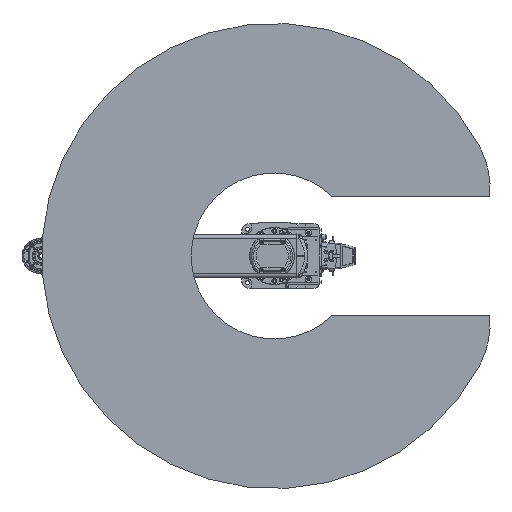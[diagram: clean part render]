
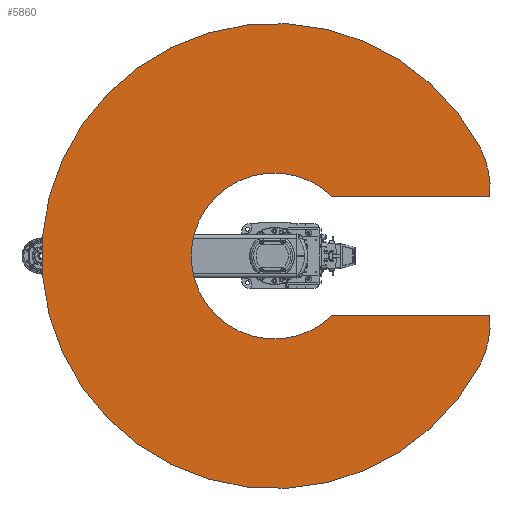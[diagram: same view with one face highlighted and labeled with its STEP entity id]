
A CAD part, front view. The second image highlights one B-rep face of the part: STEP entity #5860.
In plain terms, the highlighted planar face has unit normal (0, -1, 0).
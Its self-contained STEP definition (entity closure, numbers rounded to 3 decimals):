
#5860 = ADVANCED_FACE( '', ( #13416 ), #13417, .F. );
#13416 = FACE_OUTER_BOUND( '', #23143, .T. );
#13417 = PLANE( '', #23144 );
#23143 = EDGE_LOOP( '', ( #39813, #39814, #39815, #39816, #39817, #39818 ) );
#23144 = AXIS2_PLACEMENT_3D( '', #39819, #39820, #39821 );
#39813 = ORIENTED_EDGE( '', *, *, #52552, .T. );
#39814 = ORIENTED_EDGE( '', *, *, #53417, .F. );
#39815 = ORIENTED_EDGE( '', *, *, #53526, .F. );
#39816 = ORIENTED_EDGE( '', *, *, #55521, .F. );
#39817 = ORIENTED_EDGE( '', *, *, #56117, .T. );
#39818 = ORIENTED_EDGE( '', *, *, #56118, .T. );
#39819 = CARTESIAN_POINT( '', ( 93.894, 0., 176.59 ) );
#39820 = DIRECTION( '', ( 0., 1., 0. ) );
#39821 = DIRECTION( '', ( 0., 0., 1. ) );
#52552 = EDGE_CURVE( '', #62901, #62899, #62902, .T. );
#53417 = EDGE_CURVE( '', #64299, #62899, #64301, .T. );
#53526 = EDGE_CURVE( '', #64466, #64299, #64467, .T. );
#55521 = EDGE_CURVE( '', #67464, #64466, #67467, .T. );
#56117 = EDGE_CURVE( '', #67464, #68270, #68271, .T. );
#56118 = EDGE_CURVE( '', #68270, #62901, #68272, .T. );
#62899 = VERTEX_POINT( '', #78990 );
#62901 = VERTEX_POINT( '', #78993 );
#62902 = LINE( '', #78994, #78995 );
#64299 = VERTEX_POINT( '', #81200 );
#64301 = CIRCLE( '', #81203, 250. );
#64466 = VERTEX_POINT( '', #81648 );
#64467 = CIRCLE( '', #81649, 650. );
#67464 = VERTEX_POINT( '', #86862 );
#67467 = CIRCLE( '', #86866, 250. );
#68270 = VERTEX_POINT( '', #88290 );
#68271 = LINE( '', #88291, #88292 );
#68272 = CIRCLE( '', #88293, 232. );
#78990 = CARTESIAN_POINT( '', ( -165., 0., 602.138 ) );
#78993 = CARTESIAN_POINT( '', ( -165., 0., 163.092 ) );
#78994 = CARTESIAN_POINT( '', ( -165., 0., 0. ) );
#78995 = VECTOR( '', #95796, 1000. );
#81200 = CARTESIAN_POINT( '', ( -305.157, 0., 573.916 ) );
#81203 = AXIS2_PLACEMENT_3D( '', #96945, #96946, #96947 );
#81648 = CARTESIAN_POINT( '', ( 305.157, 0., 573.916 ) );
#81649 = AXIS2_PLACEMENT_3D( '', #97073, #97074, #97075 );
#86862 = CARTESIAN_POINT( '', ( 165., 0., 602.138 ) );
#86866 = AXIS2_PLACEMENT_3D( '', #99466, #99467, #99468 );
#88290 = CARTESIAN_POINT( '', ( 165., 0., 163.092 ) );
#88291 = CARTESIAN_POINT( '', ( 165., 0., 650. ) );
#88292 = VECTOR( '', #100094, 1000. );
#88293 = AXIS2_PLACEMENT_3D( '', #100095, #100096, #100097 );
#95796 = DIRECTION( '', ( 0., 0., 1. ) );
#96945 = CARTESIAN_POINT( '', ( -187.789, 0., 353.179 ) );
#96946 = DIRECTION( '', ( 0., 1., 0. ) );
#96947 = DIRECTION( '', ( 1., 0., 0. ) );
#97073 = CARTESIAN_POINT( '', ( 0., 0., 0. ) );
#97074 = DIRECTION( '', ( 0., 1., 0. ) );
#97075 = DIRECTION( '', ( 1., 0., 0. ) );
#99466 = CARTESIAN_POINT( '', ( 187.789, 0., 353.179 ) );
#99467 = DIRECTION( '', ( 0., 1., 0. ) );
#99468 = DIRECTION( '', ( 1., 0., 0. ) );
#100094 = DIRECTION( '', ( 0., 0., -1. ) );
#100095 = CARTESIAN_POINT( '', ( 0., 0., 0. ) );
#100096 = DIRECTION( '', ( 0., 1., 0. ) );
#100097 = DIRECTION( '', ( 1., 0., 0. ) );
